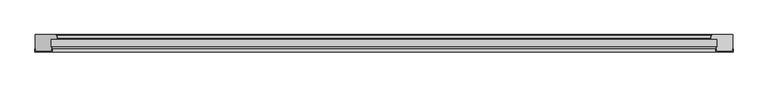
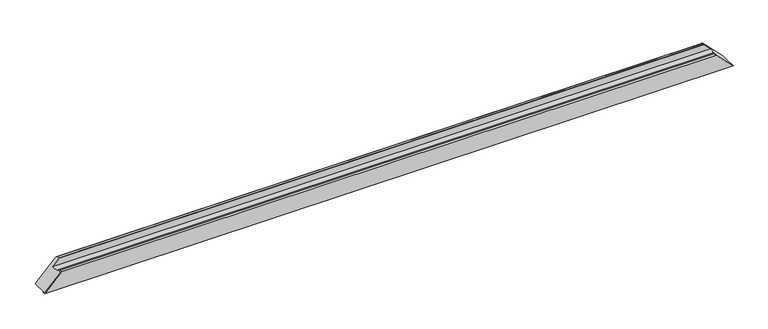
"""IFC4 building model written with IfcOpenShell, lengths in millimetres: proxy geometry, Weiku - Montante - Caixilho 02.2.01.005 : Weiku - Montante - Caixilho 02.2.01.005."""

import ifcopenshell
import ifcopenshell.guid

model = None  # the IFC model being written
_history = None  # IfcOwnerHistory: only IFC2X3 demands one
_inside = {}  # id of a spatial element -> (the spatial element, [elements in it])
_under = {}  # id of a project, library or spatial element -> (it, [spatial elements below it])
_declared = {}  # id of a project -> (the project, [libraries it declares])
_typed = {}  # id of a type object -> (the type object, [elements of that type])
_made_of = {}  # id of a material, layer set ... -> (it, [elements and type objects made of it])


def new_model(schema):
    """Start an empty IFC model of exactly this schema.

    Asked for "IFC4X3", IfcOpenShell would pick the latest addendum, in which some entities
    have other attributes; the version numbers below select the first issue.
    IFC2X3 requires an IfcOwnerHistory on every rooted entity: one is made here for all.
    """
    global model, _history
    if schema == "IFC4X3":
        model = ifcopenshell.file(schema_version=(4, 3, 0, 0))
    else:
        model = ifcopenshell.file(schema=schema)
    _inside.clear()
    _under.clear()
    _declared.clear()
    _typed.clear()
    _made_of.clear()
    _history = None
    if model.schema == "IFC2X3":
        org = make("IfcOrganization", Name="unknown")
        user = make(
            "IfcPersonAndOrganization",
            ThePerson=make("IfcPerson", FamilyName="unknown"),
            TheOrganization=org,
        )
        app = make(
            "IfcApplication",
            ApplicationDeveloper=org,
            Version="unknown",
            ApplicationFullName="unknown",
            ApplicationIdentifier="unknown",
        )
        _history = make(
            "IfcOwnerHistory",
            OwningUser=user,
            OwningApplication=app,
            ChangeAction="ADDED",
            CreationDate=0,
        )
    return model


def make(cls, **values):
    """One entity of the class cls with the attributes given. An attribute that is None is left unset."""
    return model.create_entity(
        cls, **{name: value for name, value in values.items() if value is not None}
    )


def rooted(cls, **values):
    """An entity with a GlobalId (a new one), such as an element, a storey or a relation."""
    return make(cls, GlobalId=ifcopenshell.guid.new(), OwnerHistory=_history, **values)


def si_unit(unit_type, name, prefix=None):
    """IfcSIUnit, for example si_unit("LENGTHUNIT", "METRE", prefix="MILLI")."""
    return make("IfcSIUnit", UnitType=unit_type, Prefix=prefix, Name=name)


def assignment(units):
    """IfcUnitAssignment: the units of a project."""
    return None if units is None else make("IfcUnitAssignment", Units=units)


def point(xyz):
    """IfcCartesianPoint."""
    return None if xyz is None else make("IfcCartesianPoint", Coordinates=xyz)


def direction(xyz):
    """IfcDirection."""
    return None if xyz is None else make("IfcDirection", DirectionRatios=xyz)


def frame(location, z_axis=None, x_axis=None):
    """IfcAxis2Placement3D, a coordinate frame: its origin and axes. An axis left out is left unset."""
    return make(
        "IfcAxis2Placement3D",
        Location=point(location),
        Axis=direction(z_axis),
        RefDirection=direction(x_axis),
    )


def origin():
    """The frame at (0, 0, 0) with its axes left unset."""
    return frame((0.0, 0.0, 0.0))


def place(relative_to, where):
    """IfcLocalPlacement: puts the frame where relative to a parent placement (None: the world)."""
    return make(
        "IfcLocalPlacement", PlacementRelTo=relative_to, RelativePlacement=where
    )


def context(
    kind, dimensions, precision=None, world=None, true_north=None, identifier=None
):
    """IfcGeometricRepresentationContext, for example the 3D "Model" context."""
    return make(
        "IfcGeometricRepresentationContext",
        ContextIdentifier=identifier,
        ContextType=kind,
        CoordinateSpaceDimension=dimensions,
        Precision=precision,
        WorldCoordinateSystem=world,
        TrueNorth=true_north,
    )


def project(units=None, contexts=None):
    """IfcProject with its units and contexts."""
    return rooted(
        "IfcProject",
        Name="project",
        RepresentationContexts=contexts,
        UnitsInContext=assignment(units),
    )


def spatial(cls, under=None, at=None, **own):
    """A site, building, storey or space (cls), placed at a placement, below another one or the project."""
    s = rooted(cls, ObjectPlacement=at, **own)
    if under is not None:
        _under.setdefault(under.id(), (under, []))[1].append(s)
    return s


def ellipse_curve(where, semi_axis1, semi_axis2):
    """IfcEllipse in the frame where."""
    return make(
        "IfcEllipse", Position=where, SemiAxis1=semi_axis1, SemiAxis2=semi_axis2
    )


def faces_of(points, faces, orient=None, outer=None):
    """IfcFace entities. A face is a list of loops; a loop is a list of indices into points, from 0.

    orient and outer hold one flag for each loop. By default every Orientation is true, the
    first loop of a face is its IfcFaceOuterBound and the others are IfcFaceBound.
    """
    made = []
    for i, loops in enumerate(faces):
        bounds = []
        for j, loop in enumerate(loops):
            is_outer = j == 0 if outer is None else outer[i][j]
            bounds.append(
                make(
                    "IfcFaceOuterBound" if is_outer else "IfcFaceBound",
                    Bound=make("IfcPolyLoop", Polygon=[points[k] for k in loop]),
                    Orientation=True if orient is None else orient[i][j],
                )
            )
        made.append(make("IfcFace", Bounds=bounds))
    return made


def faceted_brep(points, faces, orient=None, outer=None, voids=None):
    """IfcFacetedBrep: a solid bounded by flat faces; with voids (closed shells), ...WithVoids."""
    shared = [point(p) for p in points]
    hull = make("IfcClosedShell", CfsFaces=faces_of(shared, faces, orient, outer))
    if voids is None:
        return make("IfcFacetedBrep", Outer=hull)
    return make(
        "IfcFacetedBrepWithVoids",
        Outer=hull,
        Voids=[
            make(cls, CfsFaces=faces_of(shared, fs, o, b)) for cls, fs, o, b in voids
        ],
    )


def shape(context_of_items, identifier, shape_type, items):
    """IfcShapeRepresentation: the items that make up one representation, for example the "Body"."""
    return make(
        "IfcShapeRepresentation",
        ContextOfItems=context_of_items,
        RepresentationIdentifier=identifier,
        RepresentationType=shape_type,
        Items=items,
    )


def source(mapping_origin, context_of_items, identifier, shape_type, items):
    """IfcRepresentationMap: a shape defined once, which mapped items show again and again."""
    return make(
        "IfcRepresentationMap",
        MappingOrigin=mapping_origin,
        MappedRepresentation=shape(context_of_items, identifier, shape_type, items),
    )


def transform(
    local_origin,
    x_axis=None,
    y_axis=None,
    z_axis=None,
    scale=None,
    scale2=None,
    scale3=None,
    uniform=True,
):
    """IfcCartesianTransformationOperator3D, or its non-uniform kind. x_axis, y_axis, z_axis: its Axis1, 2, 3."""
    if uniform:
        return make(
            "IfcCartesianTransformationOperator3D",
            Axis1=direction(x_axis),
            Axis2=direction(y_axis),
            LocalOrigin=point(local_origin),
            Scale=scale,
            Axis3=direction(z_axis),
        )
    return make(
        "IfcCartesianTransformationOperator3DnonUniform",
        Axis1=direction(x_axis),
        Axis2=direction(y_axis),
        LocalOrigin=point(local_origin),
        Scale=scale,
        Axis3=direction(z_axis),
        Scale2=scale2,
        Scale3=scale3,
    )


def mapped(mapping_source, mapping_target):
    """IfcMappedItem: shows the shape of a source again, moved by a transform."""
    return make(
        "IfcMappedItem", MappingSource=mapping_source, MappingTarget=mapping_target
    )


def made_of(thing, what):
    """Note that an element or type object is made of a material, layer set ...; save() writes the relation."""
    if what is not None:
        _made_of.setdefault(what.id(), (what, []))[1].append(thing)
    return thing


def element(
    cls,
    number,
    at=None,
    inside=None,
    cuts=None,
    type_object=None,
    material=None,
    context=None,
    identifier="Body",
    shape_type=None,
    held_by="IfcProductDefinitionShape",
    body=None,
    shapes=None,
    **own,
):
    """One element of the class cls, such as IfcWall. Its Tag is "e" and its number.

    at: its placement. inside: the storey or other place that contains it. cuts: it is an
    opening in that element (IfcRelVoidsElement). A single representation is given by context,
    identifier, shape_type and body (its items); several are given by shapes. held_by: the class
    of the entity that holds the representations. save() writes the other relations.
    """
    e = rooted(cls, Tag="e%d" % number, ObjectPlacement=at, **own)
    if body is not None:
        shapes = [shape(context, identifier, shape_type, body)]
    if shapes is not None:
        e.Representation = make(held_by, Representations=shapes)
    if inside is not None:
        _inside.setdefault(inside.id(), (inside, []))[1].append(e)
    if cuts is not None:
        rooted(
            "IfcRelVoidsElement", RelatingBuildingElement=cuts, RelatedOpeningElement=e
        )
    if type_object is not None:
        _typed.setdefault(type_object.id(), (type_object, []))[1].append(e)
    return made_of(e, material)


def aggregate(whole, parts):
    """IfcRelAggregates: a whole, such as a stair, and the parts it consists of."""
    return rooted("IfcRelAggregates", RelatingObject=whole, RelatedObjects=parts)


def save(model, path):
    """Write the relations noted so far, then the file.

    IfcRelAggregates (storeys below a building ...), IfcRelContainedInSpatialStructure (elements
    in a storey), IfcRelDefinesByType, IfcRelAssociatesMaterial and IfcRelDeclares: one each for
    every whole, place, type object, material and project.
    """
    for whole, parts in _under.values():
        aggregate(whole, parts)
    for where, things in _inside.values():
        rooted(
            "IfcRelContainedInSpatialStructure",
            RelatedElements=things,
            RelatingStructure=where,
        )
    for kind, things in _typed.values():
        rooted("IfcRelDefinesByType", RelatedObjects=things, RelatingType=kind)
    for what, things in _made_of.values():
        rooted("IfcRelAssociatesMaterial", RelatedObjects=things, RelatingMaterial=what)
    for by, libraries in _declared.values():
        rooted("IfcRelDeclares", RelatingContext=by, RelatedDefinitions=libraries)
    model.write(path)


def plane_surface(at):
    """IfcPlane: the flat surface through the origin of the frame at, square to its z axis."""
    return make("IfcPlane", Position=at)


def cylinder_surface(at, radius):
    """IfcCylindricalSurface: all points at the distance radius from the z axis of the frame at."""
    return make("IfcCylindricalSurface", Position=at, Radius=radius)


def advanced_brep(points, edges, surfaces, faces):
    """IfcAdvancedBrep: a solid bounded by faces that lie on surfaces and meet in shared edges.

    An edge is (start, end): straight between two places in points (the first is 0);
    or (start, end, curve); or (start, end, curve, False) where it runs against its curve.
    A face is (place in surfaces, loops), or (place, loops, False) where it looks against
    its surface's normal. A loop lists edges by number (the first is 1), with a minus sign
    where the edge is run from its end to its start. The first loop is the outer one.
    """
    corners = [point(p) for p in points]
    vertices = [make("IfcVertexPoint", VertexGeometry=c) for c in corners]
    made = []
    for start, end, *more in edges:
        made.append(
            make(
                "IfcEdgeCurve",
                EdgeStart=vertices[start],
                EdgeEnd=vertices[end],
                EdgeGeometry=more[0] if more else make("IfcPolyline", Points=[corners[start], corners[end]]),
                SameSense=more[1] if len(more) > 1 else True,
            )
        )
    hull = []
    for where, loops, *sense in faces:
        bounds = []
        for j, loop in enumerate(loops):
            ring = [make("IfcOrientedEdge", EdgeElement=made[abs(k) - 1], Orientation=k > 0) for k in loop]
            bounds.append(
                make(
                    "IfcFaceOuterBound" if j == 0 else "IfcFaceBound",
                    Bound=make("IfcEdgeLoop", EdgeList=ring),
                    Orientation=True,
                )
            )
        hull.append(make("IfcAdvancedFace", Bounds=bounds, FaceSurface=surfaces[where], SameSense=sense[0] if sense else True))
    return make("IfcAdvancedBrep", Outer=make("IfcClosedShell", CfsFaces=hull))


def generic_models_633729d0(model_context):
    return source(origin(), model_context, "Body", "SolidModel", [
        faceted_brep([(-1047.5, -43.5137905, 0.0), (-1048.5, -43.5137905, -1.0), (-1048.5, -52.0, -1.0), (-996.5, -52.0, 51.0), (-996.5, -43.5137905, 51.0), (-998.5, -43.5137905, 49.0), (-998.5, -50.0, 49.0), (-1047.5, -50.0, 0.0), (1047.5, -50.0, 0.0), (998.5, -50.0, 49.0), (998.5, -43.5137905, 49.0), (996.5, -43.5137905, 51.0), (996.5, -52.0, 51.0), (1048.5, -52.0, -1.0), (1048.5, -43.5137905, -1.0), (1047.5, -43.5137905, 0.0)], [[[0, 1, 2, 3, 4, 5, 6, 7]], [[8, 9, 10, 11, 12, 13, 14, 15]], [[7, 8, 15, 0]], [[6, 9, 8, 7]], [[5, 10, 9, 6]], [[4, 11, 10, 5]], [[3, 12, 11, 4]], [[2, 13, 12, 3]], [[1, 14, 13, 2]], [[0, 15, 14, 1]]]),
        advanced_brep(
        [(-1001.5, -12.5, 46.0), (1001.5, -12.5, 46.0), (981.3909676, -12.5, 66.1090324), (-981.3909676, -12.5, 66.1090324), (-1001.5, -37.8314286, 46.0), (1001.5, -37.8314286, 46.0), (-998.5, -37.027581, 49.0), (998.5, -37.027581, 49.0), (-998.5, -50.0, 49.0), (998.5, -50.0, 49.0), (1047.5, -50.0, 0.0), (-1047.5, -50.0, 0.0), (-1047.5, 0.0, 0.0), (1047.5, 0.0, 0.0), (-985.9997332, 0.0, 61.5002668), (985.9997332, 0.0, 61.5002668), (-980.618227, -11.4929448, 66.881773), (980.618227, -11.4929448, 66.881773), (983.1019557, -2.2235429, 64.3980443), (-983.1019557, -2.2235429, 64.3980443)],
        [
            (0, 1),
            (1, 2),
            (2, 3),
            (3, 0),
            (4, 5),
            (5, 1),
            (0, 4),
            (6, 7),
            (7, 5),
            (4, 6),
            (8, 9),
            (9, 7),
            (6, 8),
            (10, 9),
            (8, 11),
            (11, 10),
            (11, 12),
            (12, 13),
            (13, 10),
            (12, 14),
            (14, 15),
            (15, 13),
            (16, 17),
            (17, 18),
            (18, 19),
            (19, 16),
            (3, 16, ellipse_curve(frame((-981.3909676, -11.7, 66.1090324), z_axis=(-0.7071067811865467, 0.0, 0.7071067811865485), x_axis=(-0.7071067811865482, 0.0, -0.7071067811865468)), 1.1313708, 0.8)),
            (19, 14, ellipse_curve(frame((-985.9997332, -3.0, 61.5002668), z_axis=(-0.7071067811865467, 0.0, 0.7071067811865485), x_axis=(-0.7071067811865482, 0.0, -0.7071067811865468)), 4.2426407, 3.0)),
            (15, 18, ellipse_curve(frame((985.9997332, -3.0, 61.5002668), z_axis=(0.7071067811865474, 0.0, 0.7071067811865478), x_axis=(-0.7071067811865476, 0.0, 0.7071067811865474)), 4.2426407, 3.0)),
            (17, 2, ellipse_curve(frame((981.3909676, -11.7, 66.1090324), z_axis=(0.7071067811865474, 0.0, 0.7071067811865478), x_axis=(-0.7071067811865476, 0.0, 0.7071067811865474)), 1.1313708, 0.8)),
        ],
        [
            plane_surface(frame((-1047.5, -12.5, 66.1090324), z_axis=(0.0, -1.0, 0.0), x_axis=(1.0, 0.0, 0.0))),
            plane_surface(frame((-1047.5, -12.5, 46.0), z_axis=(0.0, 0.0, 1.0), x_axis=(1.0, 0.0, 0.0))),
            plane_surface(frame((-1047.5, -37.8314286, 46.0), z_axis=(0.0, 0.9659258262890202, -0.2588190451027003), x_axis=(1.0, 0.0, 0.0))),
            plane_surface(frame((-1047.5, -37.027581, 49.0), z_axis=(0.0, 0.0, 1.0), x_axis=(1.0, 0.0, 0.0))),
            plane_surface(frame((-1047.5, -50.0, 49.0), z_axis=(0.0, -1.0, 0.0), x_axis=(1.0, 0.0, 0.0))),
            plane_surface(frame((-1047.5, -50.0, 0.0), z_axis=(0.0, 0.0, -1.0), x_axis=(1.0, 0.0, 0.0))),
            plane_surface(frame((-1047.5, 0.0, 0.0), z_axis=(0.0, 1.0, 0.0), x_axis=(1.0, 0.0, 0.0))),
            plane_surface(frame((-1047.5, -2.2235429, 64.3980443), z_axis=(0.0, 0.2588190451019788, 0.9659258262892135), x_axis=(1.0, 0.0, 0.0))),
            plane_surface(frame((-1117.5, 15.0, -70.0), z_axis=(-0.7071067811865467, 0.0, 0.7071067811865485), x_axis=(0.0, -1.0, 0.0))),
            plane_surface(frame((977.5, 15.0, 70.0), z_axis=(0.7071067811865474, 0.0, 0.7071067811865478), x_axis=(0.0, -1.0, 0.0))),
            cylinder_surface(frame((-1047.5, -11.7, 66.1090324), z_axis=(-1.0, 0.0, 0.0), x_axis=(0.0, -1.0, 0.0)), 0.8),
            cylinder_surface(frame((-1047.5, -3.0, 61.5002668), z_axis=(-1.0, 0.0, 0.0), x_axis=(0.0, -1.0, 0.0)), 3.0),
        ],
        [
            (0, [[1, 2, 3, 4]]),
            (1, [[5, 6, -1, 7]]),
            (2, [[8, 9, -5, 10]]),
            (3, [[11, 12, -8, 13]]),
            (4, [[14, -11, 15, 16]]),
            (5, [[17, 18, 19, -16]]),
            (6, [[20, 21, 22, -18]]),
            (7, [[23, 24, 25, 26]]),
            (8, [[27, -26, 28, -20, -17, -15, -13, -10, -7, -4]]),
            (9, [[-6, -9, -12, -14, -19, -22, 29, -24, 30, -2]]),
            (10, [[-3, -30, -23, -27]]),
            (11, [[-25, -29, -21, -28]]),
        ],
    ),
    ])


if __name__ == "__main__":
    model = new_model("IFC4")
    model_context = context("Model", 3, world=origin())
    ifc_project = project(units=[si_unit("LENGTHUNIT", "METRE", prefix="MILLI")], contexts=[model_context])
    site = spatial("IfcSite", under=ifc_project)
    building = spatial("IfcBuilding", under=site)
    placement = place(None, origin())
    generic_models_shape = generic_models_633729d0(model_context)
    element("IfcBuildingElementProxy", 1, Name="Weiku - Montante - Caixilho 02.2.01.005 : Weiku - Montante - Caixilho 02.2.01.005", ObjectType="Weiku - Montante - Caixilho 02.2.01.005 : Weiku - Montante - Caixilho 02.2.01.005", at=placement, inside=building, context=model_context, shape_type="MappedRepresentation", body=[
        mapped(generic_models_shape, transform((0.0, 0.0, 0.0), x_axis=(1.0, 0.0, 0.0), y_axis=(0.0, 1.0, 0.0), z_axis=(0.0, 0.0, 1.0))),
    ])
    save(model, "model.ifc")
